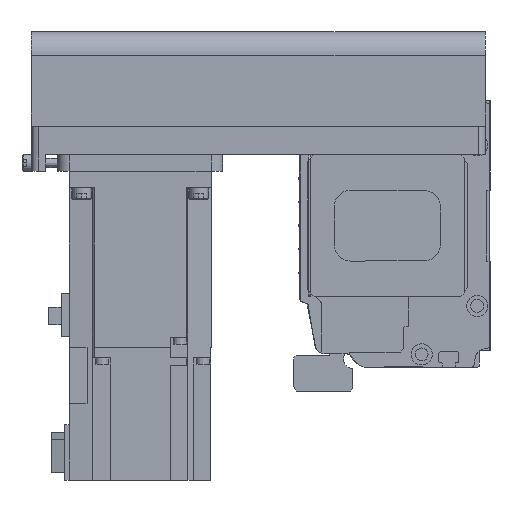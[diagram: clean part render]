
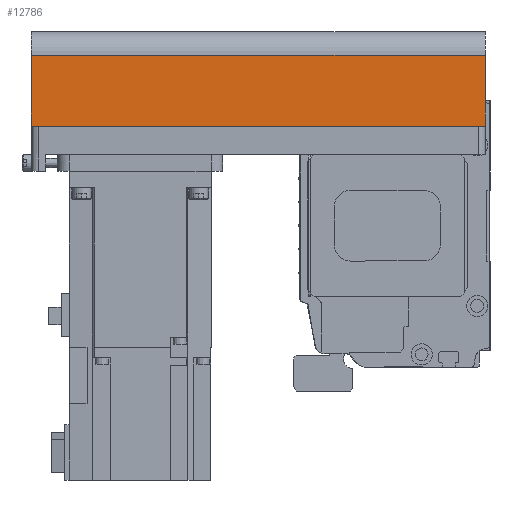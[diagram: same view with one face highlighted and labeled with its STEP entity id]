
A CAD part, left-side view. The second image highlights one B-rep face of the part: STEP entity #12786.
In plain terms, the highlighted planar face has unit normal (-1, 0, 0) as drawn and (0, 1, 0) by its records, which use the part's own axes.
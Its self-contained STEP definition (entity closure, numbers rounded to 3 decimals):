
#2283=ORIENTED_EDGE('',*,*,#5169,.F.);
#2284=ORIENTED_EDGE('',*,*,#5201,.F.);
#2285=ORIENTED_EDGE('',*,*,#5156,.T.);
#2286=ORIENTED_EDGE('',*,*,#5141,.T.);
#5141=EDGE_CURVE('',#6743,#6744,#8031,.T.);
#5156=EDGE_CURVE('',#6755,#6743,#8044,.T.);
#5169=EDGE_CURVE('',#6765,#6744,#8053,.T.);
#5201=EDGE_CURVE('',#6755,#6765,#8065,.T.);
#6743=VERTEX_POINT('',#19991);
#6744=VERTEX_POINT('',#19992);
#6755=VERTEX_POINT('',#20020);
#6765=VERTEX_POINT('',#20047);
#8031=LINE('',#19990,#9259);
#8044=LINE('',#20019,#9272);
#8053=LINE('',#20046,#9281);
#8065=LINE('',#20101,#9293);
#9259=VECTOR('',#16034,1000.);
#9272=VECTOR('',#16055,1000.);
#9281=VECTOR('',#16080,1000.);
#9293=VECTOR('',#16158,1000.);
#10348=EDGE_LOOP('',(#2283,#2284,#2285,#2286));
#11362=FACE_BOUND('',#10348,.T.);
#12209=PLANE('',#13793);
#12786=ADVANCED_FACE('',(#11362),#12209,.T.);
#13793=AXIS2_PLACEMENT_3D('',#20100,#16156,#16157);
#16034=DIRECTION('',(1.,0.,0.));
#16055=DIRECTION('',(0.,0.,1.));
#16080=DIRECTION('',(0.,0.,1.));
#16156=DIRECTION('',(0.,1.,0.));
#16157=DIRECTION('',(0.,0.,1.));
#16158=DIRECTION('',(1.,0.,0.));
#19990=CARTESIAN_POINT('',(-192.,40.,-12.1));
#19991=CARTESIAN_POINT('',(-192.,40.,-12.1));
#19992=CARTESIAN_POINT('',(0.,40.,-12.1));
#20019=CARTESIAN_POINT('',(-192.,40.,-42.));
#20020=CARTESIAN_POINT('',(-192.,40.,-42.));
#20046=CARTESIAN_POINT('',(0.,40.,-42.));
#20047=CARTESIAN_POINT('',(0.,40.,-42.));
#20100=CARTESIAN_POINT('',(-192.,40.,-42.));
#20101=CARTESIAN_POINT('',(-192.,40.,-42.));
